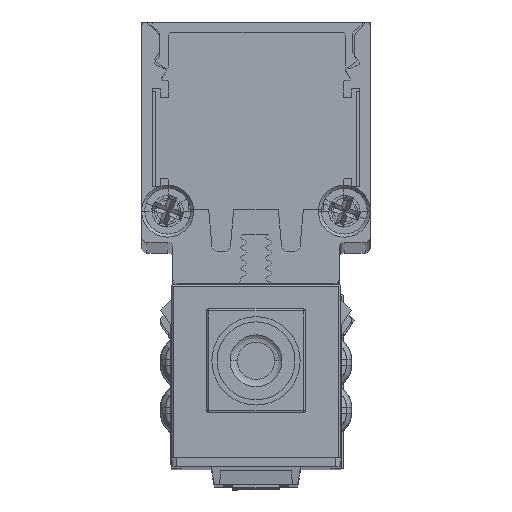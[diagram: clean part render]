
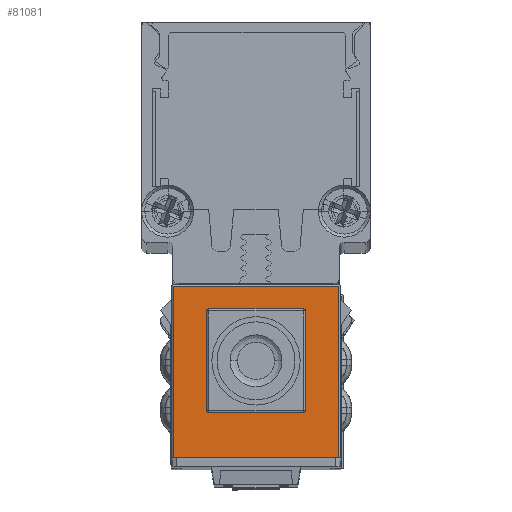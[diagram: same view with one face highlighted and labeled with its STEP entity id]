
A CAD part, top view. The second image highlights one B-rep face of the part: STEP entity #81081.
In plain terms, the highlighted planar face has unit normal (0, 0, 1) as drawn and (-1, 0, 0) by its records, which use the part's own axes.
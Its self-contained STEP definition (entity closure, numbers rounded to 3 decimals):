
#160 = DIRECTION ( 'NONE',  ( 0., 0., 1. ) ) ;
#1137 = EDGE_CURVE ( 'NONE', #43445, #93138, #86043, .T. ) ;
#1425 = AXIS2_PLACEMENT_3D ( 'NONE', #80934, #14449, #44048 ) ;
#1502 = ORIENTED_EDGE ( 'NONE', *, *, #75511, .F. ) ;
#2447 = DIRECTION ( 'NONE',  ( -1., 0., 0. ) ) ;
#3129 = DIRECTION ( 'NONE',  ( 0., -1., 0. ) ) ;
#4005 = EDGE_LOOP ( 'NONE', ( #89938, #77811, #63770, #44067 ) ) ;
#4431 = CARTESIAN_POINT ( 'NONE',  ( -6.5, 0., 16.7 ) ) ;
#5479 = CARTESIAN_POINT ( 'NONE',  ( -6.5, -4.75, 16.7 ) ) ;
#6290 = DIRECTION ( 'NONE',  ( -1., 0., 0. ) ) ;
#6544 = VECTOR ( 'NONE', #3129, 1000. ) ;
#6990 = ORIENTED_EDGE ( 'NONE', *, *, #78211, .F. ) ;
#7130 = EDGE_LOOP ( 'NONE', ( #59761, #45087, #88243, #1502, #65894, #86460, #6990, #80827 ) ) ;
#9022 = CARTESIAN_POINT ( 'NONE',  ( -6.5, -4.55, 2.4 ) ) ;
#9122 = DIRECTION ( 'NONE',  ( 0., 0., -1. ) ) ;
#10005 = AXIS2_PLACEMENT_3D ( 'NONE', #68952, #2447, #32059 ) ;
#11651 = DIRECTION ( 'NONE',  ( 0., 1., 0. ) ) ;
#11973 = DIRECTION ( 'NONE',  ( -1., 0., 0. ) ) ;
#12822 = CARTESIAN_POINT ( 'NONE',  ( -6.5, 8.15, 0.2 ) ) ;
#14449 = DIRECTION ( 'NONE',  ( -1., 0., 0. ) ) ;
#15860 = CARTESIAN_POINT ( 'NONE',  ( -6.5, -4.75, 12.2 ) ) ;
#16298 = CARTESIAN_POINT ( 'NONE',  ( -6.5, 4.75, 16.7 ) ) ;
#16832 = VERTEX_POINT ( 'NONE', #92179 ) ;
#20236 = EDGE_CURVE ( 'NONE', #87637, #72828, #37048, .T. ) ;
#20911 = CIRCLE ( 'NONE', #75171, 0.2 ) ;
#21003 = DIRECTION ( 'NONE',  ( 1., 0., 0. ) ) ;
#26396 = EDGE_CURVE ( 'NONE', #51080, #90147, #43251, .T. ) ;
#27318 = VERTEX_POINT ( 'NONE', #64016 ) ;
#28288 = FACE_OUTER_BOUND ( 'NONE', #4005, .T. ) ;
#32059 = DIRECTION ( 'NONE',  ( 0., 1., 0. ) ) ;
#33333 = VERTEX_POINT ( 'NONE', #79564 ) ;
#34029 = DIRECTION ( 'NONE',  ( 0., -1., 0. ) ) ;
#34958 = VERTEX_POINT ( 'NONE', #9022 ) ;
#35091 = DIRECTION ( 'NONE',  ( 0., 0., 1. ) ) ;
#35909 = DIRECTION ( 'NONE',  ( 0., 1., 0. ) ) ;
#37048 = LINE ( 'NONE', #66664, #52241 ) ;
#37856 = CARTESIAN_POINT ( 'NONE',  ( -6.5, 4.75, 12.2 ) ) ;
#38440 = CARTESIAN_POINT ( 'NONE',  ( -6.5, 7.95, 0.2 ) ) ;
#39490 = EDGE_CURVE ( 'NONE', #55495, #87637, #79330, .T. ) ;
#40006 = LINE ( 'NONE', #69629, #6544 ) ;
#41579 = DIRECTION ( 'NONE',  ( 0., 1., 0. ) ) ;
#42431 = DIRECTION ( 'NONE',  ( 0., 1., 0. ) ) ;
#43251 = CIRCLE ( 'NONE', #1425, 0.2 ) ;
#43445 = VERTEX_POINT ( 'NONE', #91472 ) ;
#44048 = DIRECTION ( 'NONE',  ( 0., 1., 0. ) ) ;
#44067 = ORIENTED_EDGE ( 'NONE', *, *, #20236, .F. ) ;
#44196 = AXIS2_PLACEMENT_3D ( 'NONE', #78472, #11973, #41579 ) ;
#45087 = ORIENTED_EDGE ( 'NONE', *, *, #93733, .F. ) ;
#45925 = DIRECTION ( 'NONE',  ( 0., 0., -1. ) ) ;
#46033 = LINE ( 'NONE', #75626, #78474 ) ;
#48557 = LINE ( 'NONE', #78155, #76882 ) ;
#48850 = EDGE_CURVE ( 'NONE', #88078, #43445, #82793, .T. ) ;
#49090 = AXIS2_PLACEMENT_3D ( 'NONE', #87516, #21003, #50612 ) ;
#50468 = EDGE_CURVE ( 'NONE', #34958, #27318, #20911, .T. ) ;
#50612 = DIRECTION ( 'NONE',  ( 0., 1., 0. ) ) ;
#51080 = VERTEX_POINT ( 'NONE', #15860 ) ;
#51333 = CARTESIAN_POINT ( 'NONE',  ( -6.5, -7.95, 0.2 ) ) ;
#51498 = VECTOR ( 'NONE', #35091, 1000. ) ;
#51854 = CIRCLE ( 'NONE', #10005, 0.2 ) ;
#52241 = VECTOR ( 'NONE', #160, 1000. ) ;
#55495 = VERTEX_POINT ( 'NONE', #51333 ) ;
#56667 = CARTESIAN_POINT ( 'NONE',  ( -6.5, -4.55, 12.4 ) ) ;
#57925 = PLANE ( 'NONE',  #49090 ) ;
#59482 = VECTOR ( 'NONE', #45925, 1000. ) ;
#59761 = ORIENTED_EDGE ( 'NONE', *, *, #26396, .F. ) ;
#60197 = EDGE_CURVE ( 'NONE', #72828, #16832, #70935, .T. ) ;
#63770 = ORIENTED_EDGE ( 'NONE', *, *, #60197, .F. ) ;
#64016 = CARTESIAN_POINT ( 'NONE',  ( -6.5, -4.75, 2.6 ) ) ;
#65894 = ORIENTED_EDGE ( 'NONE', *, *, #1137, .F. ) ;
#66371 = EDGE_CURVE ( 'NONE', #90147, #33333, #48557, .T. ) ;
#66664 = CARTESIAN_POINT ( 'NONE',  ( -6.5, 7.95, 16.7 ) ) ;
#68735 = EDGE_CURVE ( 'NONE', #16832, #55495, #46033, .T. ) ;
#68952 = CARTESIAN_POINT ( 'NONE',  ( -6.5, 4.55, 12.2 ) ) ;
#69629 = CARTESIAN_POINT ( 'NONE',  ( -6.5, 8.15, 2.4 ) ) ;
#70935 = LINE ( 'NONE', #4431, #93818 ) ;
#72003 = LINE ( 'NONE', #5479, #51498 ) ;
#72470 = FACE_BOUND ( 'NONE', #7130, .T. ) ;
#72797 = CARTESIAN_POINT ( 'NONE',  ( -6.5, -4.55, 2.6 ) ) ;
#72828 = VERTEX_POINT ( 'NONE', #87119 ) ;
#75171 = AXIS2_PLACEMENT_3D ( 'NONE', #72797, #6290, #35909 ) ;
#75511 = EDGE_CURVE ( 'NONE', #93138, #34958, #40006, .T. ) ;
#75626 = CARTESIAN_POINT ( 'NONE',  ( -6.5, -7.95, 16.7 ) ) ;
#76882 = VECTOR ( 'NONE', #11651, 1000. ) ;
#77811 = ORIENTED_EDGE ( 'NONE', *, *, #68735, .F. ) ;
#78155 = CARTESIAN_POINT ( 'NONE',  ( -6.5, 8.15, 12.4 ) ) ;
#78211 = EDGE_CURVE ( 'NONE', #33333, #88078, #51854, .T. ) ;
#78472 = CARTESIAN_POINT ( 'NONE',  ( -6.5, 4.55, 2.6 ) ) ;
#78474 = VECTOR ( 'NONE', #9122, 1000. ) ;
#79330 = LINE ( 'NONE', #12822, #79424 ) ;
#79424 = VECTOR ( 'NONE', #42431, 1000. ) ;
#79564 = CARTESIAN_POINT ( 'NONE',  ( -6.5, 4.55, 12.4 ) ) ;
#80827 = ORIENTED_EDGE ( 'NONE', *, *, #66371, .F. ) ;
#80934 = CARTESIAN_POINT ( 'NONE',  ( -6.5, -4.55, 12.2 ) ) ;
#81081 = ADVANCED_FACE ( 'NONE', ( #72470, #28288 ), #57925, .F. ) ;
#82793 = LINE ( 'NONE', #16298, #59482 ) ;
#86043 = CIRCLE ( 'NONE', #44196, 0.2 ) ;
#86460 = ORIENTED_EDGE ( 'NONE', *, *, #48850, .F. ) ;
#87119 = CARTESIAN_POINT ( 'NONE',  ( -6.5, 7.95, 16.7 ) ) ;
#87516 = CARTESIAN_POINT ( 'NONE',  ( -6.5, 8.15, 16.7 ) ) ;
#87637 = VERTEX_POINT ( 'NONE', #38440 ) ;
#88078 = VERTEX_POINT ( 'NONE', #37856 ) ;
#88243 = ORIENTED_EDGE ( 'NONE', *, *, #50468, .F. ) ;
#89677 = CARTESIAN_POINT ( 'NONE',  ( -6.5, 4.55, 2.4 ) ) ;
#89938 = ORIENTED_EDGE ( 'NONE', *, *, #39490, .F. ) ;
#90147 = VERTEX_POINT ( 'NONE', #56667 ) ;
#91472 = CARTESIAN_POINT ( 'NONE',  ( -6.5, 4.75, 2.6 ) ) ;
#92179 = CARTESIAN_POINT ( 'NONE',  ( -6.5, -7.95, 16.7 ) ) ;
#93138 = VERTEX_POINT ( 'NONE', #89677 ) ;
#93733 = EDGE_CURVE ( 'NONE', #27318, #51080, #72003, .T. ) ;
#93818 = VECTOR ( 'NONE', #34029, 1000. ) ;
